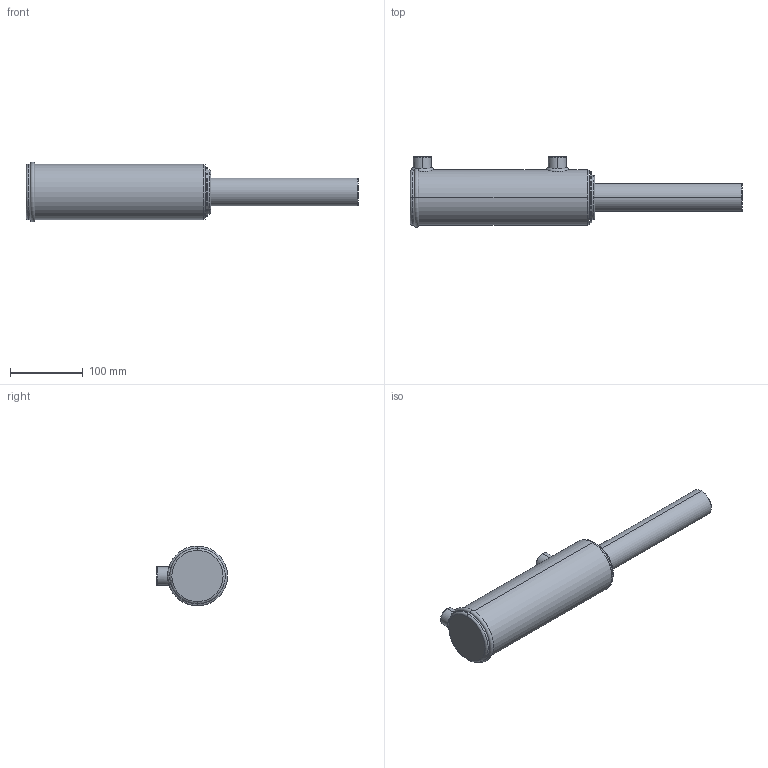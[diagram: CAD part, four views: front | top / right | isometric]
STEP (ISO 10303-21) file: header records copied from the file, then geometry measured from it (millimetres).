
FILE_DESCRIPTION (( 'STEP AP203' ), '1' );
FILE_NAME ('BL250150x152 (6) extended.STEP', '2014-11-23T22:14:42', ( '' ), ( '' ), 'SwSTEP 2.0', 'SolidWorks 2014', '' );
FILE_SCHEMA (( 'CONFIG_CONTROL_DESIGN' ));
Length unit declared in the file: millimetre
Products named in the file (3): BL body 2.5_2.5x6; Spare_2.5x6; BL250150x152 (6) extended
Assembly tree (2 placements, depth 2):
  BL250150x152 (6) extended
    BL body 2.5_2.5x6
    Spare_2.5x6
Bounding box: 455 x 97.2 x 82.2 mm (x, y, z)
Volume: 1216862.1 mm3; surface area: 143567.7 mm2
Topology: 2 solids, 2 shells, 88 faces, 205 edges, 126 vertices
Faces by surface type: cylinder 32, plane 20, torus 18, bspline 10, cone 8
Entity records: 5772 total; most frequent: CARTESIAN_POINT 3521, DIRECTION 422, ORIENTED_EDGE 402, EDGE_CURVE 201, AXIS2_PLACEMENT_3D 182, VERTEX_POINT 126, EDGE_LOOP 101, CIRCLE 99
